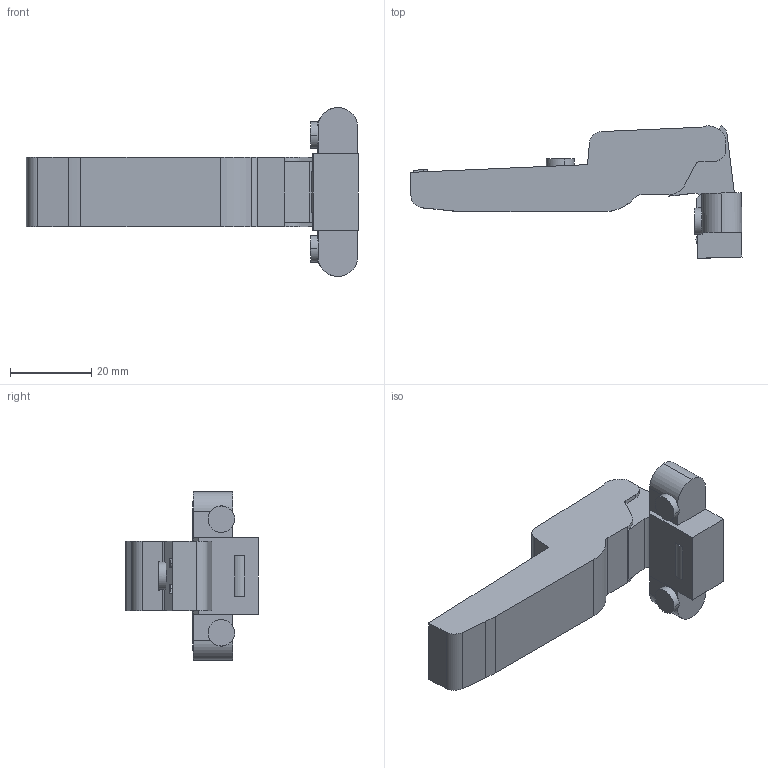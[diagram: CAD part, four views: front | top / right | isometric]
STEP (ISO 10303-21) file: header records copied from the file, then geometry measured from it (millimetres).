
FILE_DESCRIPTION (( 'STEP AP203' ), '1' );
FILE_NAME ('C82B278F-DTC 3D close.STEP', '2024-09-09T05:17:20', ( '微软用户' ), ( '微软中国' ), 'SwSTEP 2.0', 'SolidWorks 2021', '' );
FILE_SCHEMA (( 'CONFIG_CONTROL_DESIGN' ));
Length unit declared in the file: millimetre
Products named in the file (1): C82B278F-DTC 3D close
Bounding box: 81.8 x 32.67 x 41.6 mm (x, y, z)
Volume: 23179.8 mm3; surface area: 7323.8 mm2
Topology: 1 solids, 1 shells, 165 faces, 436 edges, 288 vertices
Faces by surface type: plane 79, bspline 51, cylinder 34, torus 1
Entity records: 8081 total; most frequent: CARTESIAN_POINT 4208, ORIENTED_EDGE 872, DIRECTION 633, EDGE_CURVE 436, VERTEX_POINT 288, LINE 251, VECTOR 251, AXIS2_PLACEMENT_3D 191
